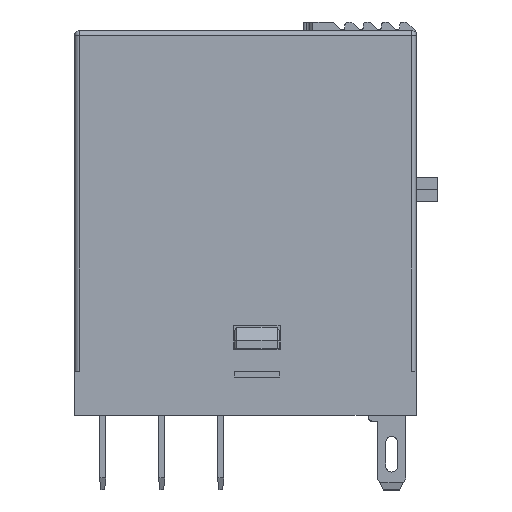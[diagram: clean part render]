
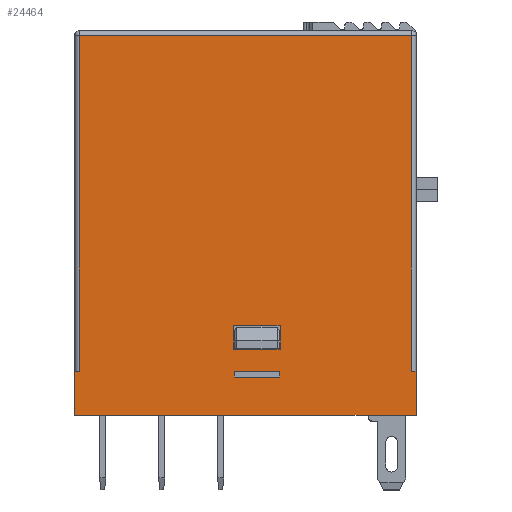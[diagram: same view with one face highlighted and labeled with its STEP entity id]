
A CAD part, top view. The second image highlights one B-rep face of the part: STEP entity #24464.
In plain terms, the highlighted planar face has unit normal (0, 0, 1).
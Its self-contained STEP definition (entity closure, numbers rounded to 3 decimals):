
#86 = ORIENTED_EDGE ( 'NONE', *, *, #13097, .T. ) ;
#276 = CARTESIAN_POINT ( 'NONE',  ( -13.6, 28.292, 6.3 ) ) ;
#297 = EDGE_CURVE ( 'NONE', #3331, #16685, #6893, .T. ) ;
#394 = ORIENTED_EDGE ( 'NONE', *, *, #297, .T. ) ;
#441 = FACE_OUTER_BOUND ( 'NONE', #16648, .T. ) ;
#692 = CARTESIAN_POINT ( 'NONE',  ( -14., -3.708, 6.3 ) ) ;
#764 = CARTESIAN_POINT ( 'NONE',  ( 3.3, -0.508, 6.3 ) ) ;
#892 = VERTEX_POINT ( 'NONE', #12006 ) ;
#1214 = VERTEX_POINT ( 'NONE', #25572 ) ;
#1318 = CARTESIAN_POINT ( 'NONE',  ( 14.1, -0.008, 6.3 ) ) ;
#1613 = VERTEX_POINT ( 'NONE', #18987 ) ;
#1873 = CARTESIAN_POINT ( 'NONE',  ( 3.325, 3.842, 6.3 ) ) ;
#1897 = VERTEX_POINT ( 'NONE', #17780 ) ;
#1912 = EDGE_CURVE ( 'NONE', #5591, #3331, #9778, .T. ) ;
#3033 = ORIENTED_EDGE ( 'NONE', *, *, #19067, .T. ) ;
#3095 = VECTOR ( 'NONE', #21420, 1000. ) ;
#3331 = VERTEX_POINT ( 'NONE', #11061 ) ;
#3438 = CARTESIAN_POINT ( 'NONE',  ( -0.55, 1.892, 6.3 ) ) ;
#3458 = DIRECTION ( 'NONE',  ( 0., -1., 0. ) ) ;
#3506 = CARTESIAN_POINT ( 'NONE',  ( -13.6, 23.492, 6.3 ) ) ;
#3904 = CARTESIAN_POINT ( 'NONE',  ( 3.3, -0.508, 6.3 ) ) ;
#3971 = VECTOR ( 'NONE', #14823, 1000. ) ;
#3993 = EDGE_CURVE ( 'NONE', #17803, #15081, #5882, .T. ) ;
#4100 = VECTOR ( 'NONE', #12412, 1000. ) ;
#4609 = ORIENTED_EDGE ( 'NONE', *, *, #22133, .T. ) ;
#4617 = CARTESIAN_POINT ( 'NONE',  ( 3.3, -0.008, 6.3 ) ) ;
#4843 = ORIENTED_EDGE ( 'NONE', *, *, #1912, .T. ) ;
#4872 = ORIENTED_EDGE ( 'NONE', *, *, #18103, .F. ) ;
#4902 = EDGE_LOOP ( 'NONE', ( #17976, #25929, #7108, #3033 ) ) ;
#5590 = VECTOR ( 'NONE', #25594, 1000. ) ;
#5591 = VERTEX_POINT ( 'NONE', #24335 ) ;
#5758 = EDGE_LOOP ( 'NONE', ( #4872, #17581, #11721, #21981 ) ) ;
#5817 = DIRECTION ( 'NONE',  ( -1., 0., 0. ) ) ;
#5821 = VERTEX_POINT ( 'NONE', #15289 ) ;
#5882 = LINE ( 'NONE', #3506, #11218 ) ;
#5917 = CARTESIAN_POINT ( 'NONE',  ( -14., 9.792, 6.3 ) ) ;
#6086 = VERTEX_POINT ( 'NONE', #18418 ) ;
#6893 = LINE ( 'NONE', #19980, #12881 ) ;
#7048 = FACE_BOUND ( 'NONE', #5758, .T. ) ;
#7108 = ORIENTED_EDGE ( 'NONE', *, *, #13922, .T. ) ;
#7147 = LINE ( 'NONE', #1873, #22521 ) ;
#7458 = CARTESIAN_POINT ( 'NONE',  ( 3.3, 1.892, 6.3 ) ) ;
#7473 = CARTESIAN_POINT ( 'NONE',  ( 14.4, 28.292, 6.3 ) ) ;
#7508 = DIRECTION ( 'NONE',  ( 0., -1., 0. ) ) ;
#8598 = VECTOR ( 'NONE', #23062, 1000. ) ;
#8628 = ORIENTED_EDGE ( 'NONE', *, *, #17907, .T. ) ;
#8740 = VERTEX_POINT ( 'NONE', #16388 ) ;
#8764 = VECTOR ( 'NONE', #7508, 1000. ) ;
#9470 = LINE ( 'NONE', #18254, #4100 ) ;
#9500 = DIRECTION ( 'NONE',  ( 0., -1., 0. ) ) ;
#9778 = LINE ( 'NONE', #17864, #14472 ) ;
#9815 = ORIENTED_EDGE ( 'NONE', *, *, #12018, .T. ) ;
#9918 = DIRECTION ( 'NONE',  ( -1., 0., 0. ) ) ;
#9985 = DIRECTION ( 'NONE',  ( 0., 0., -1. ) ) ;
#11017 = EDGE_CURVE ( 'NONE', #1613, #16949, #9470, .T. ) ;
#11061 = CARTESIAN_POINT ( 'NONE',  ( 14.4, -0.008, 6.3 ) ) ;
#11205 = VECTOR ( 'NONE', #22660, 1000. ) ;
#11218 = VECTOR ( 'NONE', #9500, 1000. ) ;
#11343 = ORIENTED_EDGE ( 'NONE', *, *, #3993, .T. ) ;
#11721 = ORIENTED_EDGE ( 'NONE', *, *, #24407, .F. ) ;
#11781 = VECTOR ( 'NONE', #15835, 1000. ) ;
#11853 = LINE ( 'NONE', #20643, #11205 ) ;
#12006 = CARTESIAN_POINT ( 'NONE',  ( -0.55, -0.508, 6.3 ) ) ;
#12018 = EDGE_CURVE ( 'NONE', #16685, #17803, #15372, .T. ) ;
#12412 = DIRECTION ( 'NONE',  ( 1., 0., 0. ) ) ;
#12881 = VECTOR ( 'NONE', #22020, 1000. ) ;
#13097 = EDGE_CURVE ( 'NONE', #15081, #5821, #15041, .T. ) ;
#13479 = LINE ( 'NONE', #25254, #22845 ) ;
#13899 = CARTESIAN_POINT ( 'NONE',  ( -13.6, -0.008, 6.3 ) ) ;
#13922 = EDGE_CURVE ( 'NONE', #16949, #19781, #16875, .T. ) ;
#13951 = LINE ( 'NONE', #21047, #8598 ) ;
#14472 = VECTOR ( 'NONE', #9918, 1000. ) ;
#14724 = LINE ( 'NONE', #3438, #8764 ) ;
#14755 = DIRECTION ( 'NONE',  ( 1., 0., 0. ) ) ;
#14808 = EDGE_CURVE ( 'NONE', #19958, #1214, #13951, .T. ) ;
#14823 = DIRECTION ( 'NONE',  ( -1., 0., 0. ) ) ;
#15041 = LINE ( 'NONE', #1318, #3095 ) ;
#15081 = VERTEX_POINT ( 'NONE', #13899 ) ;
#15269 = DIRECTION ( 'NONE',  ( 1., 0., 0. ) ) ;
#15289 = CARTESIAN_POINT ( 'NONE',  ( -14., -0.008, 6.3 ) ) ;
#15372 = LINE ( 'NONE', #19824, #19417 ) ;
#15835 = DIRECTION ( 'NONE',  ( -1., 0., 0. ) ) ;
#15847 = FACE_BOUND ( 'NONE', #4902, .T. ) ;
#16388 = CARTESIAN_POINT ( 'NONE',  ( 14.8, -3.708, 6.3 ) ) ;
#16648 = EDGE_LOOP ( 'NONE', ( #11343, #86, #25759, #8628, #4609, #4843, #394, #9815 ) ) ;
#16685 = VERTEX_POINT ( 'NONE', #7473 ) ;
#16875 = LINE ( 'NONE', #7458, #5590 ) ;
#16949 = VERTEX_POINT ( 'NONE', #4617 ) ;
#17091 = EDGE_CURVE ( 'NONE', #5821, #22374, #23530, .T. ) ;
#17554 = EDGE_CURVE ( 'NONE', #1613, #892, #14724, .T. ) ;
#17581 = ORIENTED_EDGE ( 'NONE', *, *, #14808, .F. ) ;
#17780 = CARTESIAN_POINT ( 'NONE',  ( 3.325, 1.842, 6.3 ) ) ;
#17803 = VERTEX_POINT ( 'NONE', #276 ) ;
#17846 = VECTOR ( 'NONE', #14755, 1000. ) ;
#17864 = CARTESIAN_POINT ( 'NONE',  ( 14.1, -0.008, 6.3 ) ) ;
#17907 = EDGE_CURVE ( 'NONE', #22374, #8740, #21929, .T. ) ;
#17938 = DIRECTION ( 'NONE',  ( 0., 1., 0. ) ) ;
#17976 = ORIENTED_EDGE ( 'NONE', *, *, #17554, .F. ) ;
#18103 = EDGE_CURVE ( 'NONE', #1214, #1897, #13479, .T. ) ;
#18254 = CARTESIAN_POINT ( 'NONE',  ( -14., -0.008, 6.3 ) ) ;
#18365 = EDGE_CURVE ( 'NONE', #1897, #6086, #7147, .T. ) ;
#18418 = CARTESIAN_POINT ( 'NONE',  ( 3.325, 3.842, 6.3 ) ) ;
#18698 = LINE ( 'NONE', #764, #3971 ) ;
#18987 = CARTESIAN_POINT ( 'NONE',  ( -0.55, -0.008, 6.3 ) ) ;
#19067 = EDGE_CURVE ( 'NONE', #19781, #892, #18698, .T. ) ;
#19404 = CARTESIAN_POINT ( 'NONE',  ( -14., -3.708, 6.3 ) ) ;
#19417 = VECTOR ( 'NONE', #5817, 1000. ) ;
#19781 = VERTEX_POINT ( 'NONE', #3904 ) ;
#19824 = CARTESIAN_POINT ( 'NONE',  ( -13.6, 28.292, 6.3 ) ) ;
#19958 = VERTEX_POINT ( 'NONE', #24423 ) ;
#19980 = CARTESIAN_POINT ( 'NONE',  ( 14.4, 23.492, 6.3 ) ) ;
#20643 = CARTESIAN_POINT ( 'NONE',  ( 14.8, -3.708, 6.3 ) ) ;
#21047 = CARTESIAN_POINT ( 'NONE',  ( -0.575, 3.842, 6.3 ) ) ;
#21420 = DIRECTION ( 'NONE',  ( -1., 0., 0. ) ) ;
#21929 = LINE ( 'NONE', #692, #17846 ) ;
#21981 = ORIENTED_EDGE ( 'NONE', *, *, #18365, .F. ) ;
#22020 = DIRECTION ( 'NONE',  ( 0., 1., 0. ) ) ;
#22133 = EDGE_CURVE ( 'NONE', #8740, #5591, #11853, .T. ) ;
#22374 = VERTEX_POINT ( 'NONE', #23254 ) ;
#22427 = LINE ( 'NONE', #23730, #11781 ) ;
#22521 = VECTOR ( 'NONE', #17938, 1000. ) ;
#22660 = DIRECTION ( 'NONE',  ( 0., 1., 0. ) ) ;
#22845 = VECTOR ( 'NONE', #15269, 1000. ) ;
#22889 = VECTOR ( 'NONE', #3458, 1000. ) ;
#23062 = DIRECTION ( 'NONE',  ( 0., -1., 0. ) ) ;
#23254 = CARTESIAN_POINT ( 'NONE',  ( -14., -3.708, 6.3 ) ) ;
#23530 = LINE ( 'NONE', #19404, #22889 ) ;
#23730 = CARTESIAN_POINT ( 'NONE',  ( -0.5, 3.842, 6.3 ) ) ;
#23738 = AXIS2_PLACEMENT_3D ( 'NONE', #5917, #9985, #23973 ) ;
#23973 = DIRECTION ( 'NONE',  ( 0., -1., 0. ) ) ;
#24335 = CARTESIAN_POINT ( 'NONE',  ( 14.8, -0.008, 6.3 ) ) ;
#24407 = EDGE_CURVE ( 'NONE', #6086, #19958, #22427, .T. ) ;
#24423 = CARTESIAN_POINT ( 'NONE',  ( -0.575, 3.842, 6.3 ) ) ;
#24464 = ADVANCED_FACE ( 'NONE', ( #441, #15847, #7048 ), #25916, .F. ) ;
#25254 = CARTESIAN_POINT ( 'NONE',  ( -0.5, 1.842, 6.3 ) ) ;
#25572 = CARTESIAN_POINT ( 'NONE',  ( -0.575, 1.842, 6.3 ) ) ;
#25594 = DIRECTION ( 'NONE',  ( 0., -1., 0. ) ) ;
#25759 = ORIENTED_EDGE ( 'NONE', *, *, #17091, .T. ) ;
#25916 = PLANE ( 'NONE',  #23738 ) ;
#25929 = ORIENTED_EDGE ( 'NONE', *, *, #11017, .T. ) ;
